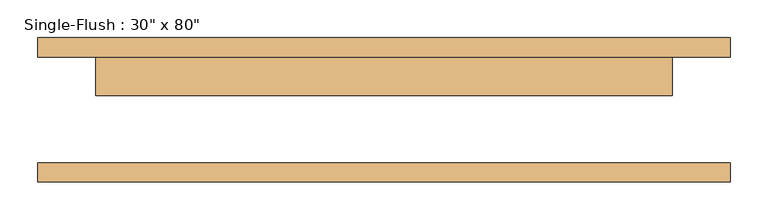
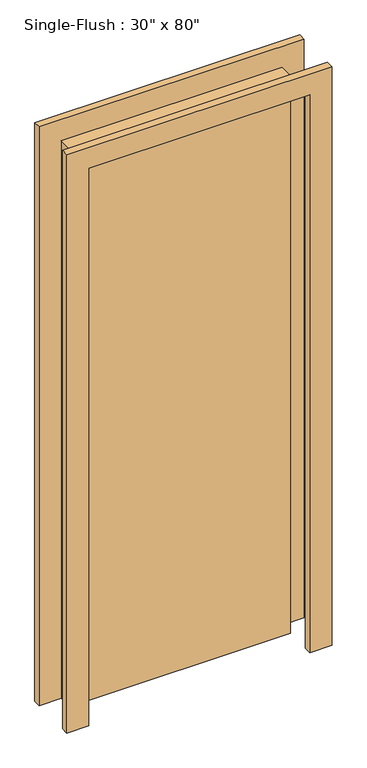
"""IFC4 building model written with IfcOpenShell, lengths in millimetres: door geometry."""

from ifc_helpers import new_model, si_unit, frame, origin, origin_with_axes, place, context, project, spatial, polyline, outline, extrude, source, transform, mapped, element, save


def door_d876b020(model_context):
    return source(origin(), model_context, "Body", "SweptSolid", [
        extrude(outline(polyline([(2108.2, -457.2), (0.0, -457.2), (0.0, -381.0), (2032.0, -381.0), (2032.0, 381.0), (0.0, 381.0), (0.0, 457.2), (2108.2, 457.2), (2108.2, -457.2)])), frame((0.0, 70.0, 0.0), z_axis=(0.0, 1.0, 0.0), x_axis=(0.0, 0.0, 1.0)), (0.0, 0.0, 1.0), 25.4),
        extrude(outline(polyline([(2108.2, 457.2), (2108.2, -457.2), (0.0, -457.2), (0.0, -381.0), (2032.0, -381.0), (2032.0, 381.0), (0.0, 381.0), (0.0, 457.2), (2108.2, 457.2)])), frame((0.0, -95.4, 0.0), z_axis=(0.0, 1.0, 0.0), x_axis=(0.0, 0.0, 1.0)), (0.0, 0.0, 1.0), 25.4),
        extrude(outline(polyline([(381.0, 19.2), (-381.0, 19.2), (-381.0, 70.0), (381.0, 70.0), (381.0, 19.2)])), origin_with_axes(), (0.0, 0.0, 1.0), 2032.0),
    ])


if __name__ == "__main__":
    model = new_model("IFC4")
    model_context = context("Model", 3, world=origin())
    ifc_project = project(units=[si_unit("LENGTHUNIT", "METRE", prefix="MILLI")], contexts=[model_context])
    site = spatial("IfcSite", under=ifc_project)
    building = spatial("IfcBuilding", under=site)
    placement = place(None, origin())
    door_shape = door_d876b020(model_context)
    element("IfcDoor", 1, ObjectType="Single-Flush : 30\" x 80\"", at=placement, inside=building, context=model_context, shape_type="MappedRepresentation", body=[
        mapped(door_shape, transform((0.0, 0.0, 0.0), x_axis=(1.0, 0.0, 0.0), y_axis=(0.0, 1.0, 0.0), z_axis=(0.0, 0.0, 1.0))),
    ])
    save(model, "model.ifc")
